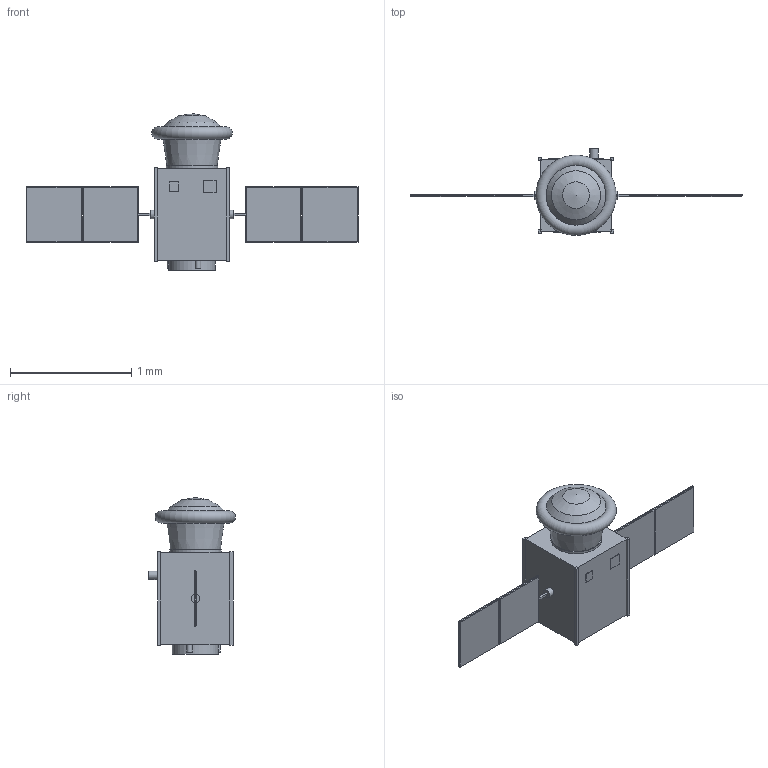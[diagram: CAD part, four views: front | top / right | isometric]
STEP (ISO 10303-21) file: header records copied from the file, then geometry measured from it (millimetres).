
FILE_DESCRIPTION(('Open CASCADE Model'),'2;1');
FILE_NAME('Open CASCADE Shape Model','2026-10-04T13:15:45',('Author'),( 'Open CASCADE'),'Open CASCADE STEP processor 7.9','Open CASCADE 7.9' ,'Unknown');
FILE_SCHEMA(('AUTOMOTIVE_DESIGN { 1 0 10303 214 1 1 1 1 }'));
Length unit declared in the file: millimetre
Products named in the file (47): SP-WORM; capsule_backshell; nose; heat_shield_packed; sample_drawer; sample_cassette_1; sample_cassette_2; sample_cassette_3; optical_window; capsule_avionics_and_hold_battery; parachute_canister; recovery_beacon; separation_interface; service_module_structure; corner_rail_-X-Y; corner_rail_-X+Y; corner_rail_+X-Y; corner_rail_+X+Y; radiator_+Y_face; experiment_instruments_microscope_pumps_reservoirs; propellant_tank_LMP-103S; battery; on-board_computer_and_radios; reaction_wheel_1; reaction_wheel_2; reaction_wheel_3; magnetorquer_1; magnetorquer_2; star_tracker; S-band_antenna; X-band_antenna; 22_N_thruster_1; 22_N_thruster_2; 22_N_thruster_3; launch_separation_ring; array_drive_-X; yoke_-X; solar_panel_-X1; panel_frame_-X1; solar_panel_-X2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
Assembly tree (46 placements, depth 2):
  SP-WORM
    capsule_backshell
    nose
    heat_shield_packed
    sample_drawer
    sample_cassette_1
    sample_cassette_2
    sample_cassette_3
    optical_window
    capsule_avionics_and_hold_battery
    parachute_canister
    recovery_beacon
    separation_interface
    service_module_structure
    corner_rail_-X-Y
    corner_rail_-X+Y
    corner_rail_+X-Y
    corner_rail_+X+Y
    radiator_+Y_face
    experiment_instruments_microscope_pumps_reservoirs
    propellant_tank_LMP-103S
    battery
    on-board_computer_and_radios
    reaction_wheel_1
    reaction_wheel_2
    reaction_wheel_3
    magnetorquer_1
    magnetorquer_2
    star_tracker
    S-band_antenna
    X-band_antenna
    22_N_thruster_1
    22_N_thruster_2
    22_N_thruster_3
    launch_separation_ring
    array_drive_-X
    yoke_-X
    solar_panel_-X1
    panel_frame_-X1
    solar_panel_-X2
    panel_frame_-X2
    array_drive_+X
    yoke_+X
    solar_panel_+X1
    panel_frame_+X1
    solar_panel_+X2
    panel_frame_+X2
Bounding box: 2.73 x 0.72 x 1.29 mm (x, y, z)
Volume: 0.4 mm3; surface area: 10.9 mm2
Topology: 46 solids, 46 shells, 218 faces, 389 edges, 258 vertices
Faces by surface type: plane 195, cylinder 17, cone 4, torus 1, sphere 1
Full cylindrical faces by diameter (mm): 0.024 x2, 0.04 x1, 0.045 x3, 0.07 x3, 0.09 x3, 0.14 x1, 0.341 x1, 0.381 x1, 0.423 x1, 0.491 x1
Entity records: 11325 total; most frequent: DIRECTION 1725, CARTESIAN_POINT 1677, LINE 1080, VECTOR 1080, ORIENTED_EDGE 770, PCURVE 770, DEFINITIONAL_REPRESENTATION 770, EDGE_CURVE 385
